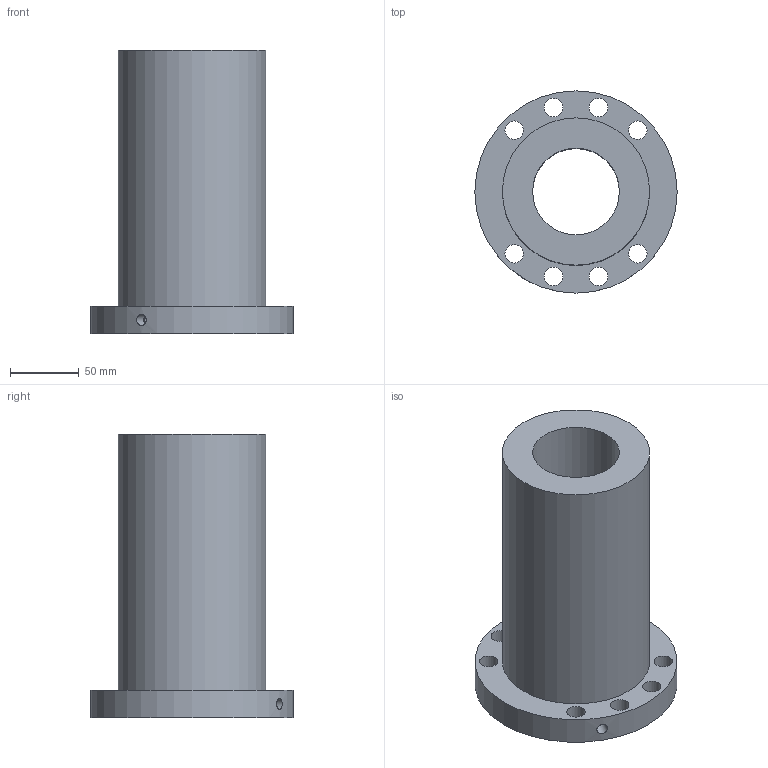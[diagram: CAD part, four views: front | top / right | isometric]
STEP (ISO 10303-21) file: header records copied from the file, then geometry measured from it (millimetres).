
FILE_DESCRIPTION(/* description */ (''),/* implementation_level */ '2;1');
FILE_NAME(/* name */ '63-16K4_9525',/* time_stamp */ '2007-10-15T12:53:53+08:00',/* author */ (''),/* organization */ (''),/* preprocessor_version */ 'ST-DEVELOPER v11',/* originating_system */ 'UGS - NX 5.0',/* authorisation */ '');
FILE_SCHEMA (('CONFIG_CONTROL_DESIGN'));
Length unit declared in the file: millimetre
Products named in the file (1): 63-16K4_9525
Bounding box: 147 x 147 x 206 mm (x, y, z)
Volume: 1345488.9 mm3; surface area: 145534.3 mm2
Topology: 1 solids, 1 shells, 17 faces, 40 edges, 27 vertices
Faces by surface type: cylinder 13, plane 4
Full cylindrical faces by diameter (mm): 6 x1, 8 x1, 13.5 x8, 63 x1, 107 x1, 147 x1
Entity records: 668 total; most frequent: CARTESIAN_POINT 184, DIRECTION 84, FACE_BOUND 52, EDGE_LOOP 52, ORIENTED_EDGE 52, AXIS2_PLACEMENT_3D 42, VERTEX_POINT 26, EDGE_CURVE 26
